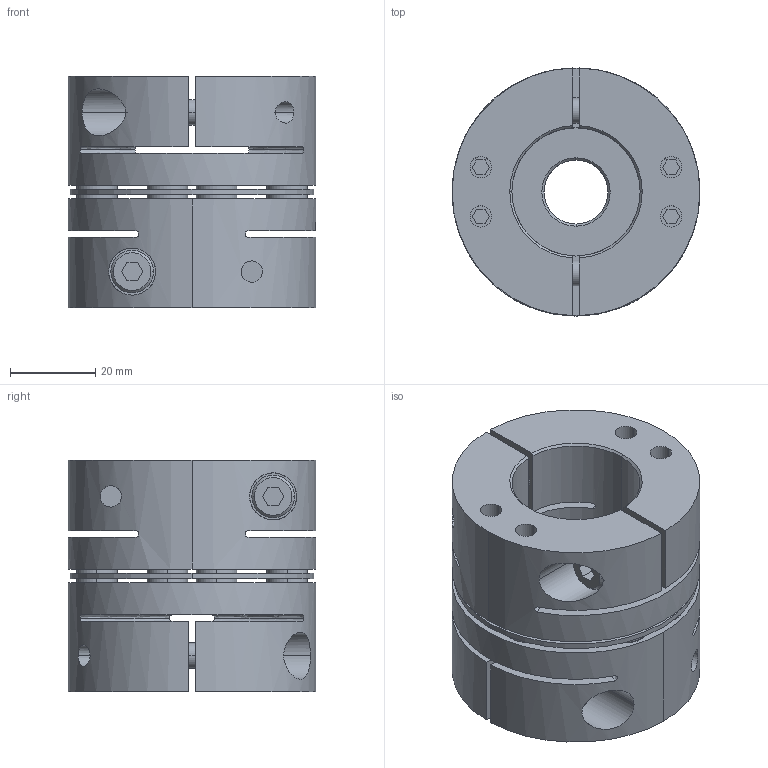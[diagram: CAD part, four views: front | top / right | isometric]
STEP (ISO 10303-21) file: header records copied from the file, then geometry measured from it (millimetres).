
FILE_DESCRIPTION((''),'2;1');
FILE_NAME('TAS-58C-15×30.stp','2022-11-14T22:13:26',(''),(''),'AutoCAD STEP 2000i','AutoCAD 2000i',', , ');
FILE_SCHEMA(('CONFIG_CONTROL_DESIGN'));
Length unit declared in the file: millimetre
Products named in the file (6): TAS-58C-12×22; 忣兜1; TA58C-22; CAP-M6×20; TA58C-12-2; TA58C-12
Assembly tree (7 placements, depth 3):
  TAS-58C-12×22
    忣兜1
    TA58C-22
      CAP-M6×20
    TA58C-12-2
      CAP-M6×20
    TA58C-12
      CAP-M6×20
Bounding box: 58 x 58 x 54.25 mm (x, y, z)
Volume: 99792.3 mm3; surface area: 41109.9 mm2
Topology: 1 solids, 1 shells, 360 faces, 898 edges, 628 vertices
Faces by surface type: plane 160, cylinder 148, cone 36, bspline 16
Entity records: 12813 total; most frequent: CARTESIAN_POINT 3840, DIRECTION 1922, ORIENTED_EDGE 1720, EDGE_CURVE 860, AXIS2_PLACEMENT_3D 732, VERTEX_POINT 564, EDGE_LOOP 464, VECTOR 458
